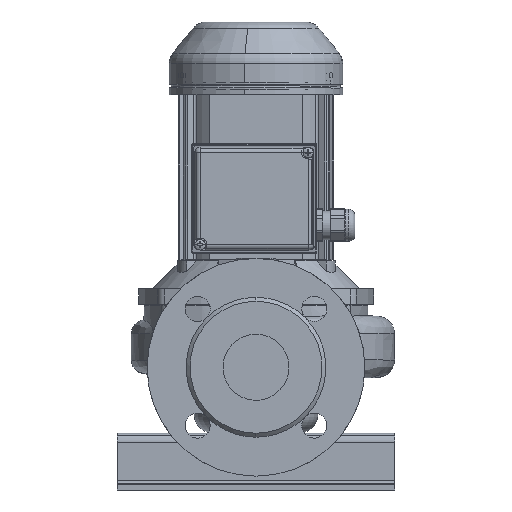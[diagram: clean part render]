
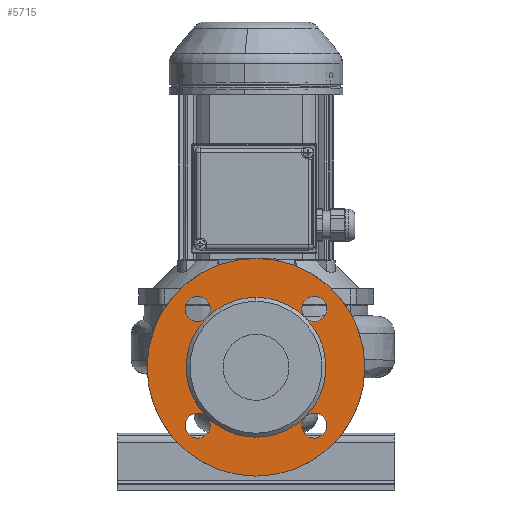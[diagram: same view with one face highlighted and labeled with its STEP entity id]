
A CAD part, front view. The second image highlights one B-rep face of the part: STEP entity #5715.
In plain terms, the highlighted planar face has unit normal (0, -1, 0) as drawn and (0, 1, 0) by its records, which use the part's own axes.
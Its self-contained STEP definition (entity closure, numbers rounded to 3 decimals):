
#5715=ADVANCED_FACE('',(#14614,#14615),#14616,.T.);
#5747=EDGE_CURVE('',#14666,#14667,#14668,.T.);
#5749=EDGE_CURVE('',#14670,#14666,#14671,.T.);
#5751=EDGE_CURVE('',#14673,#14670,#14674,.T.);
#5755=EDGE_CURVE('',#14680,#14681,#14682,.T.);
#5759=EDGE_CURVE('',#14688,#14689,#14690,.T.);
#5763=EDGE_CURVE('',#14696,#14697,#14698,.T.);
#5767=EDGE_CURVE('',#14704,#14705,#14706,.T.);
#5769=EDGE_CURVE('',#14708,#14709,#14710,.T.);
#5909=EDGE_CURVE('',#14709,#14708,#14913,.T.);
#5919=EDGE_CURVE('',#14670,#14704,#14923,.T.);
#5921=EDGE_CURVE('',#14705,#14670,#14925,.T.);
#5923=EDGE_CURVE('',#14666,#14696,#14927,.T.);
#5925=EDGE_CURVE('',#14697,#14666,#14929,.T.);
#5927=EDGE_CURVE('',#14931,#14688,#14932,.T.);
#5929=EDGE_CURVE('',#14689,#14931,#14934,.T.);
#5931=EDGE_CURVE('',#14936,#14680,#14937,.T.);
#5933=EDGE_CURVE('',#14681,#14936,#14939,.T.);
#5935=EDGE_CURVE('',#14667,#14931,#14941,.T.);
#5937=EDGE_CURVE('',#14931,#14936,#14943,.T.);
#5939=EDGE_CURVE('',#14936,#14673,#14945,.T.);
#14614=FACE_OUTER_BOUND('',#28375,.T.);
#14615=FACE_BOUND('',#28376,.T.);
#14616=PLANE('',#28377);
#14666=VERTEX_POINT('',#29438);
#14667=VERTEX_POINT('',#29439);
#14668=CIRCLE('',#29440,53.0);
#14670=VERTEX_POINT('',#29443);
#14671=CIRCLE('',#29444,53.0);
#14673=VERTEX_POINT('',#29447);
#14674=CIRCLE('',#29448,53.0);
#14680=VERTEX_POINT('',#29456);
#14681=VERTEX_POINT('',#29457);
#14682=CIRCLE('',#29458,9.5);
#14688=VERTEX_POINT('',#29466);
#14689=VERTEX_POINT('',#29467);
#14690=CIRCLE('',#29468,9.5);
#14696=VERTEX_POINT('',#29476);
#14697=VERTEX_POINT('',#29477);
#14698=CIRCLE('',#29478,9.5);
#14704=VERTEX_POINT('',#29486);
#14705=VERTEX_POINT('',#29487);
#14706=CIRCLE('',#29488,9.5);
#14708=VERTEX_POINT('',#29491);
#14709=VERTEX_POINT('',#29492);
#14710=CIRCLE('',#29493,82.5);
#14913=CIRCLE('',#29835,82.5);
#14923=CIRCLE('',#29850,9.5);
#14925=CIRCLE('',#29853,9.5);
#14927=CIRCLE('',#29856,9.5);
#14929=CIRCLE('',#29859,9.5);
#14931=VERTEX_POINT('',#29862);
#14932=CIRCLE('',#29863,9.5);
#14934=CIRCLE('',#29866,9.5);
#14936=VERTEX_POINT('',#29869);
#14937=CIRCLE('',#29870,9.5);
#14939=CIRCLE('',#29873,9.5);
#14941=CIRCLE('',#29876,53.0);
#14943=CIRCLE('',#29879,53.0);
#14945=CIRCLE('',#29882,53.0);
#28375=EDGE_LOOP('',(#45520,#45521));
#28376=EDGE_LOOP('',(#45522,#45523,#45524,#45525,#45526,#45527,#45528,#45529,#45530,#45531,#45532,#45533,#45534,#45535,#45536,#45537,#45538,#45539));
#28377=AXIS2_PLACEMENT_3D('',#45540,#45541,#45542);
#29438=CARTESIAN_POINT('',(37.477,137.0,21.977));
#29439=CARTESIAN_POINT('',(0.,137.0,37.5));
#29440=AXIS2_PLACEMENT_3D('',#45664,#45665,#45666);
#29443=CARTESIAN_POINT('',(37.477,137.0,-52.977));
#29444=AXIS2_PLACEMENT_3D('',#45667,#45668,#45669);
#29447=CARTESIAN_POINT('',(0.,137.0,-68.5));
#29448=AXIS2_PLACEMENT_3D('',#45670,#45671,#45672);
#29456=CARTESIAN_POINT('',(-49.553,137.0,-51.85));
#29457=CARTESIAN_POINT('',(-38.835,137.0,-67.538));
#29458=AXIS2_PLACEMENT_3D('',#45676,#45677,#45678);
#29466=CARTESIAN_POINT('',(-36.35,137.,34.053));
#29467=CARTESIAN_POINT('',(-52.038,137.,23.335));
#29468=AXIS2_PLACEMENT_3D('',#45682,#45683,#45684);
#29476=CARTESIAN_POINT('',(49.553,137.,20.85));
#29477=CARTESIAN_POINT('',(38.835,137.,36.538));
#29478=AXIS2_PLACEMENT_3D('',#45688,#45689,#45690);
#29486=CARTESIAN_POINT('',(36.35,137.0,-65.053));
#29487=CARTESIAN_POINT('',(52.038,137.0,-54.335));
#29488=AXIS2_PLACEMENT_3D('',#45694,#45695,#45696);
#29491=CARTESIAN_POINT('',(0.,137.0,-98.0));
#29492=CARTESIAN_POINT('',(0.,137.0,67.0));
#29493=AXIS2_PLACEMENT_3D('',#45697,#45698,#45699);
#29835=AXIS2_PLACEMENT_3D('',#45881,#45882,#45883);
#29850=AXIS2_PLACEMENT_3D('',#45896,#45897,#45898);
#29853=AXIS2_PLACEMENT_3D('',#45899,#45900,#45901);
#29856=AXIS2_PLACEMENT_3D('',#45902,#45903,#45904);
#29859=AXIS2_PLACEMENT_3D('',#45905,#45906,#45907);
#29862=CARTESIAN_POINT('',(-37.477,137.0,21.977));
#29863=AXIS2_PLACEMENT_3D('',#45908,#45909,#45910);
#29866=AXIS2_PLACEMENT_3D('',#45911,#45912,#45913);
#29869=CARTESIAN_POINT('',(-37.477,137.0,-52.977));
#29870=AXIS2_PLACEMENT_3D('',#45914,#45915,#45916);
#29873=AXIS2_PLACEMENT_3D('',#45917,#45918,#45919);
#29876=AXIS2_PLACEMENT_3D('',#45920,#45921,#45922);
#29879=AXIS2_PLACEMENT_3D('',#45923,#45924,#45925);
#29882=AXIS2_PLACEMENT_3D('',#45926,#45927,#45928);
#45520=ORIENTED_EDGE('',*,*,#5909,.F.);
#45521=ORIENTED_EDGE('',*,*,#5769,.F.);
#45522=ORIENTED_EDGE('',*,*,#5747,.T.);
#45523=ORIENTED_EDGE('',*,*,#5935,.T.);
#45524=ORIENTED_EDGE('',*,*,#5927,.T.);
#45525=ORIENTED_EDGE('',*,*,#5759,.T.);
#45526=ORIENTED_EDGE('',*,*,#5929,.T.);
#45527=ORIENTED_EDGE('',*,*,#5937,.T.);
#45528=ORIENTED_EDGE('',*,*,#5931,.T.);
#45529=ORIENTED_EDGE('',*,*,#5755,.T.);
#45530=ORIENTED_EDGE('',*,*,#5933,.T.);
#45531=ORIENTED_EDGE('',*,*,#5939,.T.);
#45532=ORIENTED_EDGE('',*,*,#5751,.T.);
#45533=ORIENTED_EDGE('',*,*,#5919,.T.);
#45534=ORIENTED_EDGE('',*,*,#5767,.T.);
#45535=ORIENTED_EDGE('',*,*,#5921,.T.);
#45536=ORIENTED_EDGE('',*,*,#5749,.T.);
#45537=ORIENTED_EDGE('',*,*,#5923,.T.);
#45538=ORIENTED_EDGE('',*,*,#5763,.T.);
#45539=ORIENTED_EDGE('',*,*,#5925,.T.);
#45540=CARTESIAN_POINT('',(0.,137.0,-83.25));
#45541=DIRECTION('',(0.0,1.0,0.0));
#45542=DIRECTION('',(0.0,0.0,1.0));
#45664=CARTESIAN_POINT('',(0.,137.0,-15.5));
#45665=DIRECTION('',(0.0,-1.0,0.0));
#45666=DIRECTION('',(0.,0.0,-1.0));
#45667=CARTESIAN_POINT('',(0.,137.0,-15.5));
#45668=DIRECTION('',(0.0,-1.0,0.0));
#45669=DIRECTION('',(0.,0.0,-1.0));
#45670=CARTESIAN_POINT('',(0.,137.0,-15.5));
#45671=DIRECTION('',(0.0,-1.0,0.0));
#45672=DIRECTION('',(0.,0.0,-1.0));
#45676=CARTESIAN_POINT('',(-44.194,137.0,-59.694));
#45677=DIRECTION('',(0.0,-1.0,0.0));
#45678=DIRECTION('',(-0.564,0.0,0.826));
#45682=CARTESIAN_POINT('',(-44.194,137.,28.694));
#45683=DIRECTION('',(0.0,-1.0,0.0));
#45684=DIRECTION('',(0.826,0.0,0.564));
#45688=CARTESIAN_POINT('',(44.194,137.,28.694));
#45689=DIRECTION('',(0.0,-1.0,0.0));
#45690=DIRECTION('',(0.564,0.0,-0.826));
#45694=CARTESIAN_POINT('',(44.194,137.0,-59.694));
#45695=DIRECTION('',(0.0,-1.0,-0.0));
#45696=DIRECTION('',(-0.826,0.0,-0.564));
#45697=CARTESIAN_POINT('',(0.,137.0,-15.5));
#45698=DIRECTION('',(0.0,-1.0,0.0));
#45699=DIRECTION('',(0.,0.0,-1.0));
#45881=CARTESIAN_POINT('',(0.,137.0,-15.5));
#45882=DIRECTION('',(0.0,-1.0,0.0));
#45883=DIRECTION('',(0.,0.0,-1.0));
#45896=CARTESIAN_POINT('',(44.194,137.0,-59.694));
#45897=DIRECTION('',(0.0,-1.0,-0.0));
#45898=DIRECTION('',(-0.826,0.0,-0.564));
#45899=CARTESIAN_POINT('',(44.194,137.0,-59.694));
#45900=DIRECTION('',(0.0,-1.0,-0.0));
#45901=DIRECTION('',(-0.826,0.0,-0.564));
#45902=CARTESIAN_POINT('',(44.194,137.,28.694));
#45903=DIRECTION('',(0.0,-1.0,0.0));
#45904=DIRECTION('',(0.564,0.0,-0.826));
#45905=CARTESIAN_POINT('',(44.194,137.,28.694));
#45906=DIRECTION('',(0.0,-1.0,0.0));
#45907=DIRECTION('',(0.564,0.0,-0.826));
#45908=CARTESIAN_POINT('',(-44.194,137.,28.694));
#45909=DIRECTION('',(0.0,-1.0,0.0));
#45910=DIRECTION('',(0.826,0.0,0.564));
#45911=CARTESIAN_POINT('',(-44.194,137.,28.694));
#45912=DIRECTION('',(0.0,-1.0,0.0));
#45913=DIRECTION('',(0.826,0.0,0.564));
#45914=CARTESIAN_POINT('',(-44.194,137.0,-59.694));
#45915=DIRECTION('',(0.0,-1.0,0.0));
#45916=DIRECTION('',(-0.564,0.0,0.826));
#45917=CARTESIAN_POINT('',(-44.194,137.0,-59.694));
#45918=DIRECTION('',(0.0,-1.0,0.0));
#45919=DIRECTION('',(-0.564,0.0,0.826));
#45920=CARTESIAN_POINT('',(0.,137.0,-15.5));
#45921=DIRECTION('',(0.0,-1.0,0.0));
#45922=DIRECTION('',(0.,0.0,-1.0));
#45923=CARTESIAN_POINT('',(0.,137.0,-15.5));
#45924=DIRECTION('',(0.0,-1.0,0.0));
#45925=DIRECTION('',(0.,0.0,-1.0));
#45926=CARTESIAN_POINT('',(0.,137.0,-15.5));
#45927=DIRECTION('',(0.0,-1.0,0.0));
#45928=DIRECTION('',(0.,0.0,-1.0));
